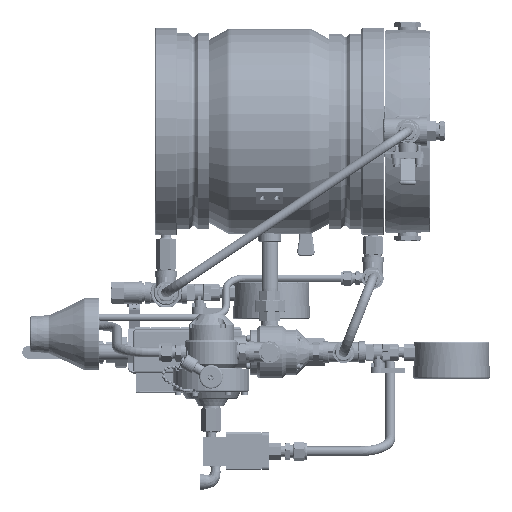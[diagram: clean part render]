
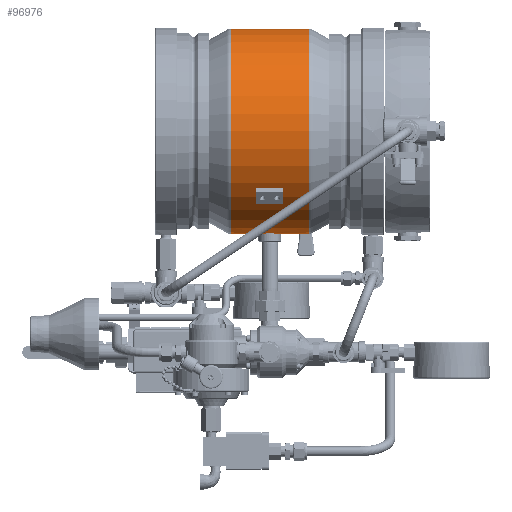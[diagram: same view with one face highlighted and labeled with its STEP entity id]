
A CAD part, front view. The second image highlights one B-rep face of the part: STEP entity #96976.
In plain terms, the highlighted cylindrical face has radius 135 mm (diameter 270 mm), a full revolution.
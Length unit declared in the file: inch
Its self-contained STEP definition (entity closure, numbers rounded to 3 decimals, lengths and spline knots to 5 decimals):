
#1757=B_SPLINE_CURVE_WITH_KNOTS('',3,(#168958,#168959,#168960,#168961,#168962,
#168963,#168964,#168965,#168966,#168967,#168968,#168969,#168970,#168971,
#168972,#168973,#168974,#168975),.UNSPECIFIED.,.F.,.F.,(4,2,2,2,2,2,2,2,
4),(2.11108,2.63884,3.16661,3.69438,
4.22215,4.74992,5.27769,5.80546,6.33323),
 .UNSPECIFIED.);
#1758=B_SPLINE_CURVE_WITH_KNOTS('',3,(#168976,#168977,#168978,#168979,#168980,
#168981,#168982,#168983,#168984,#168985,#168986,#168987,#168988,#168989,
#168990,#168991,#168992,#168993,#168994),.UNSPECIFIED.,.F.,.F.,(4,2,2,2,
3,2,2,2,4),(6.33323,6.86099,7.38876,7.91653,
8.4443,8.97207,9.49984,10.02761,10.55538),
 .UNSPECIFIED.);
#19242=FACE_BOUND('',#33742,.T.);
#19243=FACE_BOUND('',#33743,.T.);
#20566=CYLINDRICAL_SURFACE('',#106145,5.31496);
#25924=FACE_OUTER_BOUND('',#33741,.T.);
#33741=EDGE_LOOP('',(#81251));
#33742=EDGE_LOOP('',(#81252,#81253));
#33743=EDGE_LOOP('',(#81254));
#37997=CIRCLE('',#106144,5.31496);
#37998=CIRCLE('',#106146,5.31496);
#46119=VERTEX_POINT('',#168956);
#46120=VERTEX_POINT('',#168957);
#46141=VERTEX_POINT('',#169086);
#46142=VERTEX_POINT('',#169089);
#58013=EDGE_CURVE('',#46119,#46120,#1757,.T.);
#58014=EDGE_CURVE('',#46120,#46119,#1758,.T.);
#58035=EDGE_CURVE('',#46141,#46141,#37997,.T.);
#58036=EDGE_CURVE('',#46142,#46142,#37998,.T.);
#81251=ORIENTED_EDGE('',*,*,#58036,.F.);
#81252=ORIENTED_EDGE('',*,*,#58013,.T.);
#81253=ORIENTED_EDGE('',*,*,#58014,.T.);
#81254=ORIENTED_EDGE('',*,*,#58035,.F.);
#96976=ADVANCED_FACE('',(#25924,#19242,#19243),#20566,.T.);
#106144=AXIS2_PLACEMENT_3D('',#169087,#129063,#129064);
#106145=AXIS2_PLACEMENT_3D('',#169088,#129065,#129066);
#106146=AXIS2_PLACEMENT_3D('',#169090,#129067,#129068);
#129063=DIRECTION('center_axis',(1.,0.,0.));
#129064=DIRECTION('ref_axis',(0.,-1.,0.));
#129065=DIRECTION('center_axis',(-1.,0.,0.));
#129066=DIRECTION('ref_axis',(0.,1.,0.));
#129067=DIRECTION('center_axis',(-1.,0.,0.));
#129068=DIRECTION('ref_axis',(0.,-1.,0.));
#168956=CARTESIAN_POINT('',(14.51824,-31.38644,-33.10724));
#168957=CARTESIAN_POINT('',(13.41588,-31.38644,-33.10724));
#168958=CARTESIAN_POINT('Ctrl Pts',(14.51824,-31.38644,-33.10724));
#168959=CARTESIAN_POINT('Ctrl Pts',(14.51824,-31.31718,
-33.10724));
#168960=CARTESIAN_POINT('Ctrl Pts',(14.50439,-31.24333,-33.10574));
#168961=CARTESIAN_POINT('Ctrl Pts',(14.44812,-31.10755,
-33.10035));
#168962=CARTESIAN_POINT('Ctrl Pts',(14.40571,-31.0456,
-33.09652));
#168963=CARTESIAN_POINT('Ctrl Pts',(14.30789,-30.94778,
-33.08933));
#168964=CARTESIAN_POINT('Ctrl Pts',(14.24595,-30.90537,
-33.0855));
#168965=CARTESIAN_POINT('Ctrl Pts',(14.11016,-30.84911,
-33.08008));
#168966=CARTESIAN_POINT('Ctrl Pts',(14.03632,-30.83526,
-33.07858));
#168967=CARTESIAN_POINT('Ctrl Pts',(13.8978,-30.83526,
-33.07858));
#168968=CARTESIAN_POINT('Ctrl Pts',(13.82395,-30.84911,
-33.08008));
#168969=CARTESIAN_POINT('Ctrl Pts',(13.68817,-30.90537,
-33.0855));
#168970=CARTESIAN_POINT('Ctrl Pts',(13.62622,-30.94778,
-33.08933));
#168971=CARTESIAN_POINT('Ctrl Pts',(13.5284,-31.0456,
-33.09652));
#168972=CARTESIAN_POINT('Ctrl Pts',(13.48599,-31.10755,
-33.10035));
#168973=CARTESIAN_POINT('Ctrl Pts',(13.42973,-31.24333,
-33.10574));
#168974=CARTESIAN_POINT('Ctrl Pts',(13.41588,-31.31718,
-33.10724));
#168975=CARTESIAN_POINT('Ctrl Pts',(13.41588,-31.38644,-33.10724));
#168976=CARTESIAN_POINT('Ctrl Pts',(13.41588,-31.38644,-33.10724));
#168977=CARTESIAN_POINT('Ctrl Pts',(13.41588,-31.4557,
-33.10724));
#168978=CARTESIAN_POINT('Ctrl Pts',(13.42973,-31.52954,
-33.10574));
#168979=CARTESIAN_POINT('Ctrl Pts',(13.48599,-31.66533,
-33.10035));
#168980=CARTESIAN_POINT('Ctrl Pts',(13.5284,-31.72727,
-33.09652));
#168981=CARTESIAN_POINT('Ctrl Pts',(13.62622,-31.82509,
-33.08933));
#168982=CARTESIAN_POINT('Ctrl Pts',(13.68817,-31.8675,
-33.0855));
#168983=CARTESIAN_POINT('Ctrl Pts',(13.82395,-31.92377,
-33.08008));
#168984=CARTESIAN_POINT('Ctrl Pts',(13.8978,-31.93762,
-33.07858));
#168985=CARTESIAN_POINT('Ctrl Pts',(13.96706,-31.93762,
-33.07858));
#168986=CARTESIAN_POINT('Ctrl Pts',(14.03632,-31.93762,
-33.07858));
#168987=CARTESIAN_POINT('Ctrl Pts',(14.11016,-31.92377,
-33.08008));
#168988=CARTESIAN_POINT('Ctrl Pts',(14.24595,-31.8675,
-33.0855));
#168989=CARTESIAN_POINT('Ctrl Pts',(14.30789,-31.82509,
-33.08933));
#168990=CARTESIAN_POINT('Ctrl Pts',(14.40571,-31.72727,
-33.09652));
#168991=CARTESIAN_POINT('Ctrl Pts',(14.44812,-31.66533,
-33.10035));
#168992=CARTESIAN_POINT('Ctrl Pts',(14.50439,-31.52954,-33.10574));
#168993=CARTESIAN_POINT('Ctrl Pts',(14.51824,-31.4557,
-33.10724));
#168994=CARTESIAN_POINT('Ctrl Pts',(14.51824,-31.38644,-33.10724));
#169086=CARTESIAN_POINT('',(15.98959,-26.07148,-27.79228));
#169087=CARTESIAN_POINT('Origin',(15.98959,-31.38644,-27.79228));
#169088=CARTESIAN_POINT('Origin',(13.96706,-31.38644,-27.79228));
#169089=CARTESIAN_POINT('',(11.94452,-26.07148,-27.79228));
#169090=CARTESIAN_POINT('Origin',(11.94452,-31.38644,-27.79228));
